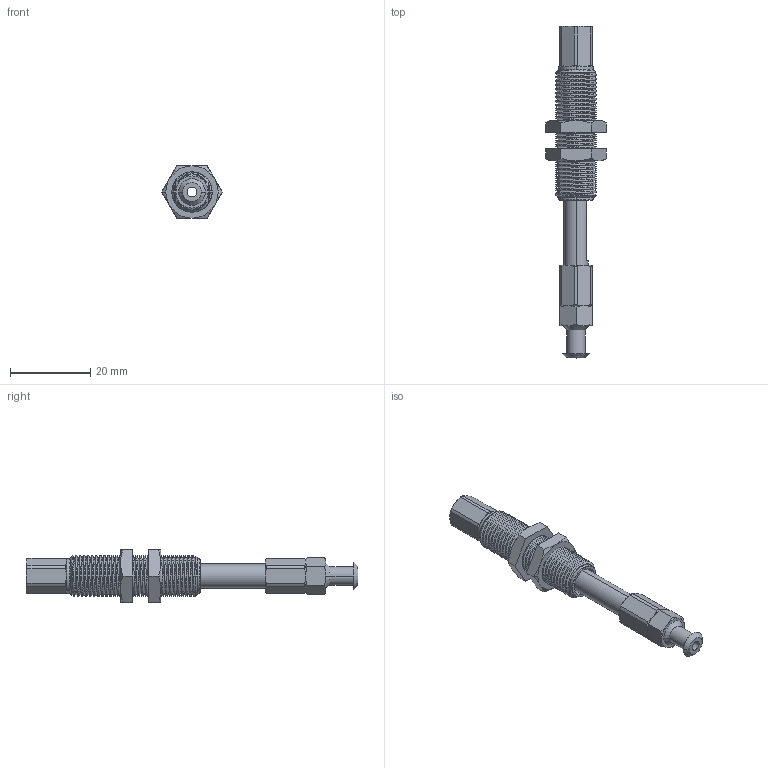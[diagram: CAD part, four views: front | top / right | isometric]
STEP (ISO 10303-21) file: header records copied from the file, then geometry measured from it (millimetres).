
FILE_DESCRIPTION (( 'STEP AP203' ), '1' );
FILE_NAME ('BLN04-4BT15NK67-M5-Z耳6.6耳4.5_asm〞〞TOC.STEP', '2024-10-17T03:13:36', ( '' ), ( '' ), 'SwSTEP 2.0', 'SolidWorks 2022', '' );
FILE_SCHEMA (( 'CONFIG_CONTROL_DESIGN' ));
Length unit declared in the file: millimetre
Products named in the file (1): BLN04-4BT15NK67-M5-Zφ6.6φ4.5_asm——TOC
Bounding box: 15.01 x 82.5 x 13 mm (x, y, z)
Surface area: 3933.2 mm2 (no closed solid volume)
Topology: 0 solids, 10 shells, 236 faces, 657 edges, 430 vertices
Faces by surface type: cylinder 87, cone 82, plane 46, bspline 21
Entity records: 16309 total; most frequent: CARTESIAN_POINT 10843, ORIENTED_EDGE 1182, DIRECTION 930, EDGE_CURVE 657, VERTEX_POINT 430, AXIS2_PLACEMENT_3D 380, B_SPLINE_CURVE_WITH_KNOTS 323, EDGE_LOOP 249
